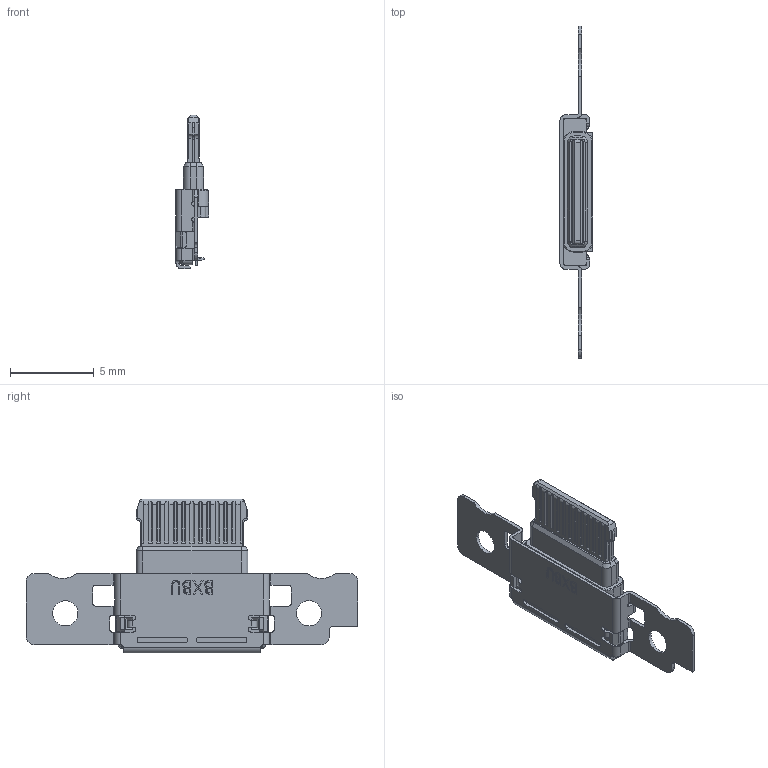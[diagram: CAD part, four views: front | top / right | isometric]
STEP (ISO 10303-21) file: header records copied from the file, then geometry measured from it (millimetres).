
FILE_DESCRIPTION (( 'STEP AP203' ), '1' );
FILE_NAME ('U5408-24PNMW9.2L.STEP', '2026-09-01T07:57:36', ( '' ), ( '' ), 'SwSTEP 2.0', 'SolidWorks 2024', '' );
FILE_SCHEMA (( 'CONFIG_CONTROL_DESIGN' ));
Length unit declared in the file: millimetre
Products named in the file (1): U5408-24PNMW9.2L
Bounding box: 1.98 x 19.84 x 9.2 mm (x, y, z)
Volume: 84.2 mm3; surface area: 389.2 mm2
Topology: 1 solids, 6 shells, 920 faces, 2568 edges, 1668 vertices
Faces by surface type: plane 681, cylinder 200, bspline 27, cone 12
Entity records: 30897 total; most frequent: CARTESIAN_POINT 7338, ORIENTED_EDGE 5136, DIRECTION 4560, EDGE_CURVE 2568, VECTOR 2000, LINE 2000, VERTEX_POINT 1668, AXIS2_PLACEMENT_3D 1280
